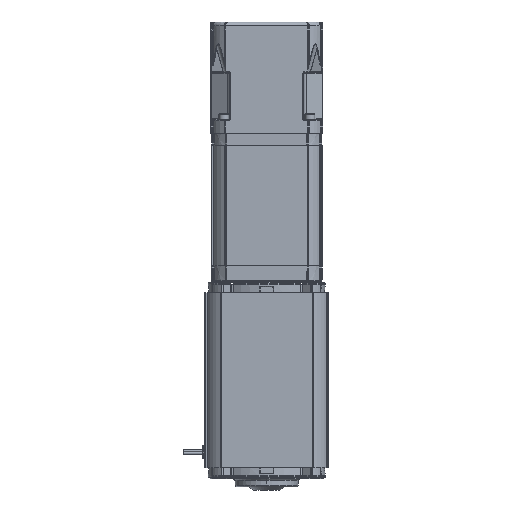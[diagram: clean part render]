
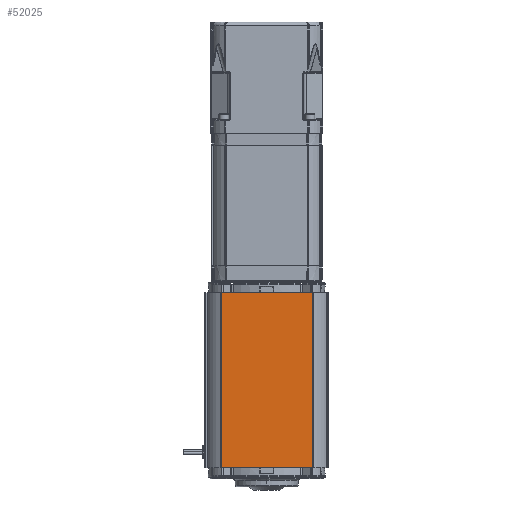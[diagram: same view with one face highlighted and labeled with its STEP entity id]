
A CAD part, left-side view. The second image highlights one B-rep face of the part: STEP entity #52025.
In plain terms, the highlighted planar face has unit normal (-1, 0, 0).
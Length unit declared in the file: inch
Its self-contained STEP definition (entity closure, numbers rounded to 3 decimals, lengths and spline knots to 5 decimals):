
#685 = DIRECTION ( 'NONE',  ( 0., -1., 0. ) ) ;
#937 = LINE ( 'NONE', #36627, #64363 ) ;
#1920 = VERTEX_POINT ( 'NONE', #2560 ) ;
#2560 = CARTESIAN_POINT ( 'NONE',  ( -1.977, -1.4525, -4.689 ) ) ;
#3784 = EDGE_CURVE ( 'NONE', #30152, #1920, #60324, .T. ) ;
#4024 = EDGE_CURVE ( 'NONE', #30152, #22140, #64479, .T. ) ;
#4599 = EDGE_CURVE ( 'NONE', #21047, #1920, #43227, .T. ) ;
#4711 = EDGE_CURVE ( 'NONE', #21047, #22140, #937, .T. ) ;
#8634 = DIRECTION ( 'NONE',  ( 0., 0., -1. ) ) ;
#10871 = CARTESIAN_POINT ( 'NONE',  ( -1.977, -1.4525, -10.431 ) ) ;
#15912 = DIRECTION ( 'NONE',  ( -1., 0., 0. ) ) ;
#17788 = CARTESIAN_POINT ( 'NONE',  ( -1.977, 1.4525, -4.689 ) ) ;
#19843 = ORIENTED_EDGE ( 'NONE', *, *, #4024, .F. ) ;
#21047 = VERTEX_POINT ( 'NONE', #17788 ) ;
#21747 = ORIENTED_EDGE ( 'NONE', *, *, #4599, .F. ) ;
#22140 = VERTEX_POINT ( 'NONE', #47114 ) ;
#22695 = VECTOR ( 'NONE', #37229, 39.37008 ) ;
#30152 = VERTEX_POINT ( 'NONE', #44188 ) ;
#34766 = CARTESIAN_POINT ( 'NONE',  ( -1.977, 1.4825, -4.689 ) ) ;
#36627 = CARTESIAN_POINT ( 'NONE',  ( -1.977, 1.4525, -10.431 ) ) ;
#37229 = DIRECTION ( 'NONE',  ( 0., 1., 0. ) ) ;
#41583 = ORIENTED_EDGE ( 'NONE', *, *, #4711, .T. ) ;
#42496 = AXIS2_PLACEMENT_3D ( 'NONE', #48915, #15912, #54322 ) ;
#43227 = LINE ( 'NONE', #34766, #55926 ) ;
#44188 = CARTESIAN_POINT ( 'NONE',  ( -1.977, -1.4525, -10.266 ) ) ;
#45928 = VECTOR ( 'NONE', #65906, 39.37008 ) ;
#47114 = CARTESIAN_POINT ( 'NONE',  ( -1.977, 1.4525, -10.266 ) ) ;
#48915 = CARTESIAN_POINT ( 'NONE',  ( -1.977, 1.4825, -10.431 ) ) ;
#49174 = ORIENTED_EDGE ( 'NONE', *, *, #3784, .T. ) ;
#51435 = FACE_OUTER_BOUND ( 'NONE', #54482, .T. ) ;
#52025 = ADVANCED_FACE ( 'NONE', ( #51435 ), #59519, .T. ) ;
#54322 = DIRECTION ( 'NONE',  ( 0., 0., -1. ) ) ;
#54482 = EDGE_LOOP ( 'NONE', ( #19843, #49174, #21747, #41583 ) ) ;
#55926 = VECTOR ( 'NONE', #685, 39.37008 ) ;
#59519 = PLANE ( 'NONE',  #42496 ) ;
#60324 = LINE ( 'NONE', #10871, #45928 ) ;
#64363 = VECTOR ( 'NONE', #8634, 39.37008 ) ;
#64479 = LINE ( 'NONE', #69621, #22695 ) ;
#65906 = DIRECTION ( 'NONE',  ( 0., 0., 1. ) ) ;
#69621 = CARTESIAN_POINT ( 'NONE',  ( -1.977, -1.4525, -10.266 ) ) ;
